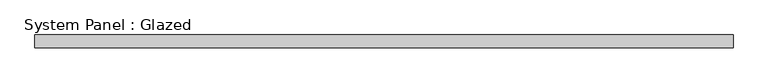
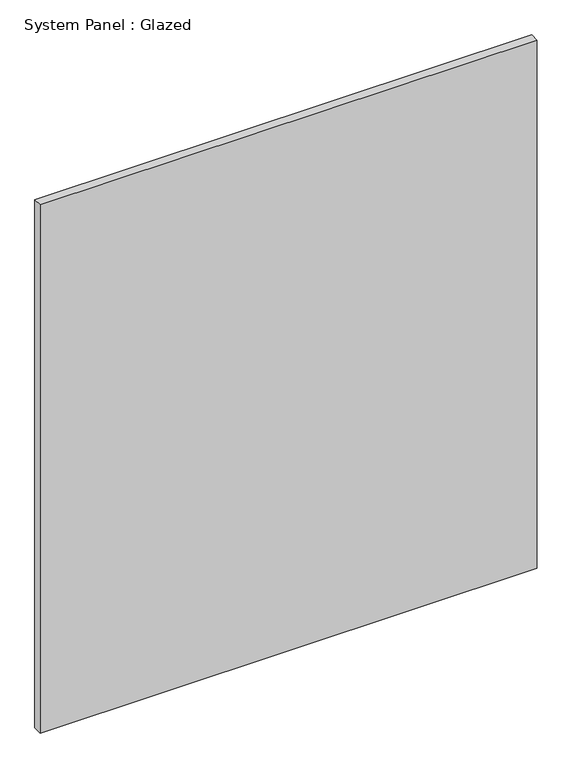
"""IFC4 building model written with IfcOpenShell, lengths in millimetres: plate geometry, System Panel : Glazed."""

from ifc_helpers import new_model, si_unit, origin, origin_with_axes, place, context, project, spatial, polyline, outline, extrude, source, transform, mapped, element, save


def system_panel_glazed_629092f2(model_context):
    return source(origin(), model_context, "Body", "SweptSolid", [
        extrude(outline(polyline([(691.6666667, 24.5), (-691.6666667, 24.5), (-691.6666667, 49.5), (691.6666667, 49.5), (691.6666667, 24.5)])), origin_with_axes(), (0.0, 0.0, 1.0), 1553.9731009),
    ])


if __name__ == "__main__":
    model = new_model("IFC4")
    model_context = context("Model", 3, world=origin())
    ifc_project = project(units=[si_unit("LENGTHUNIT", "METRE", prefix="MILLI")], contexts=[model_context])
    site = spatial("IfcSite", under=ifc_project)
    building = spatial("IfcBuilding", under=site)
    placement = place(None, origin())
    system_panel_glazed_shape = system_panel_glazed_629092f2(model_context)
    element("IfcPlate", 1, ObjectType="System Panel : Glazed", at=placement, inside=building, context=model_context, shape_type="MappedRepresentation", body=[
        mapped(system_panel_glazed_shape, transform((0.0, 0.0, 0.0), x_axis=(1.0, 0.0, 0.0), y_axis=(0.0, 1.0, 0.0), z_axis=(0.0, 0.0, 1.0))),
    ])
    save(model, "model.ifc")
